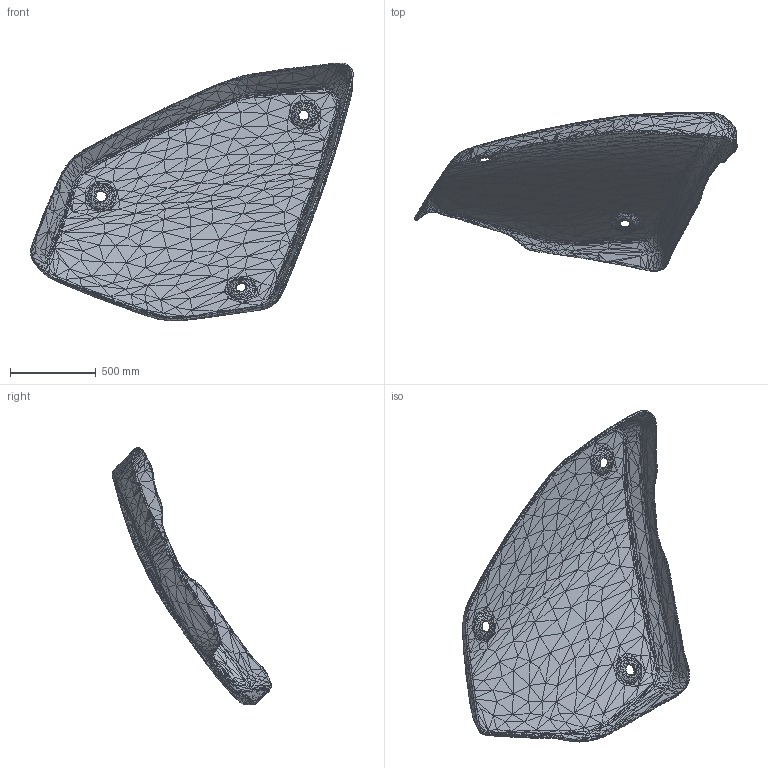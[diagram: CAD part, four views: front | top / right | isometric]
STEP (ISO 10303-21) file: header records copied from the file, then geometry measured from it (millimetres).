
FILE_DESCRIPTION(/* description */ (''),/* implementation_level */ '2;1');
FILE_NAME(/* name */ 'scan1 v1.step',/* time_stamp */ '2023-03-29T09:14:09+02:00',/* author */ (''),/* organization */ (''),/* preprocessor_version */ 'ST-DEVELOPER v19.2',/* originating_system */ 'Autodesk Translation Framework v11.17.0.187',/* authorisation */ '');
FILE_SCHEMA (('AUTOMOTIVE_DESIGN { 1 0 10303 214 3 1 1 }'));
Products named in the file (1): scan1
Bounding box: 1875.62 x 925.64 x 1500.72 mm (x, y, z)
Volume: 26693808 mm3; surface area: 5277519.3 mm2
Topology: 1 solids, 1 shells, 7330 faces, 10995 edges, 3661 vertices
Faces by surface type: plane 7330
Entity records: 142968 total; most frequent: DIRECTION 25657, ORIENTED_EDGE 21990, CARTESIAN_POINT 21987, LINE 10995, VECTOR 10995, EDGE_CURVE 10995, AXIS2_PLACEMENT_3D 7331, FACE_OUTER_BOUND 7330
